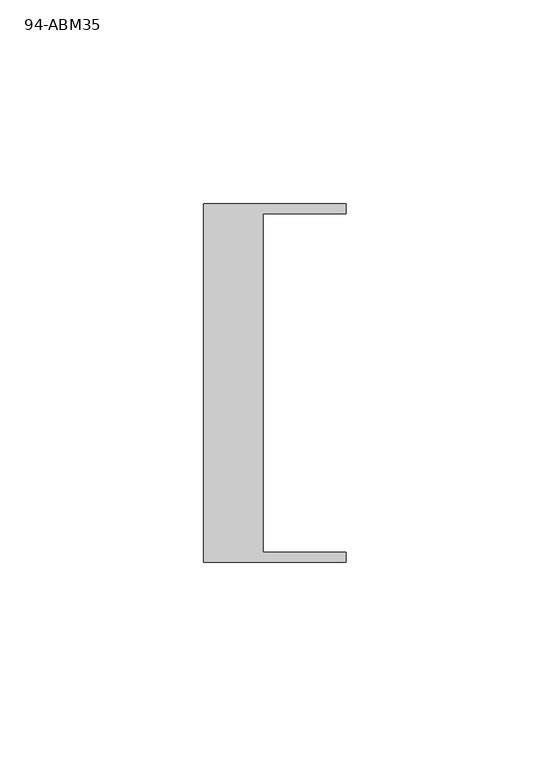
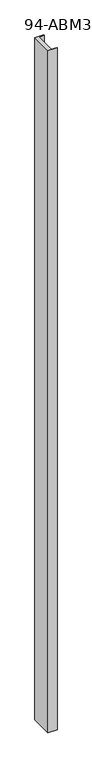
"""IFC4 building model written with IfcOpenShell, lengths in millimetres: plate geometry, PERIPH-ABM_U-MUR-M : 94-ABM35."""

from ifc_helpers import new_model, si_unit, origin, origin_with_axes, place, context, project, spatial, polyline, outline, extrude, source, transform, mapped, element, save


def plate_94_abm35_4c3a0673(model_context):
    return source(origin(), model_context, "Body", "SweptSolid", [
        extrude(outline(polyline([(27.7, 44.0), (27.7, 41.5), (7.3, 41.5), (7.3, -41.5), (27.7, -41.5), (27.7, -44.0), (-7.3, -44.0), (-7.3, 44.0), (27.7, 44.0)])), origin_with_axes(), (0.0, 0.0, 1.0), 2800.0),
    ])


if __name__ == "__main__":
    model = new_model("IFC4")
    model_context = context("Model", 3, world=origin())
    ifc_project = project(units=[si_unit("LENGTHUNIT", "METRE", prefix="MILLI")], contexts=[model_context])
    site = spatial("IfcSite", under=ifc_project)
    building = spatial("IfcBuilding", under=site)
    placement = place(None, origin())
    plate_94_abm35_shape = plate_94_abm35_4c3a0673(model_context)
    element("IfcPlate", 1, ObjectType="PERIPH-ABM_U-MUR-M : 94-ABM35", at=placement, inside=building, context=model_context, shape_type="MappedRepresentation", body=[
        mapped(plate_94_abm35_shape, transform((0.0, 0.0, 0.0), x_axis=(1.0, 0.0, 0.0), y_axis=(0.0, 1.0, 0.0), z_axis=(0.0, 0.0, 1.0))),
    ])
    save(model, "model.ifc")
